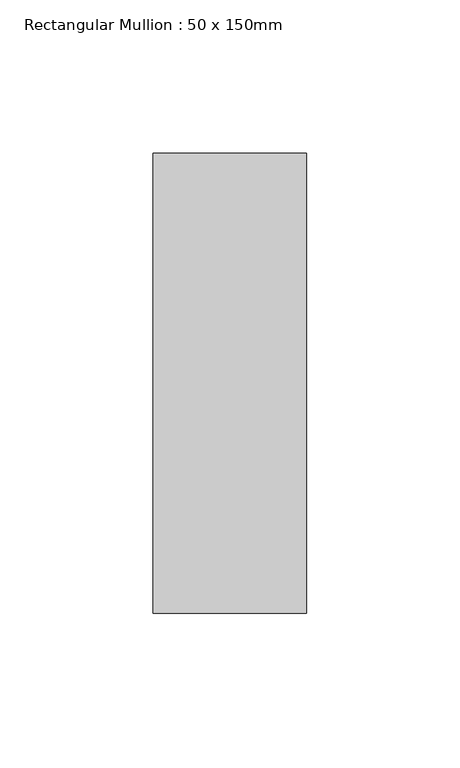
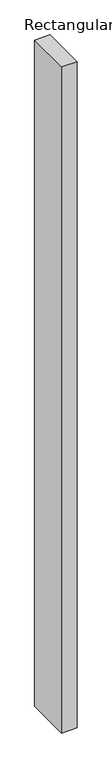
"""IFC4 building model written with IfcOpenShell, lengths in millimetres: member geometry, Rectangular Mullion : 50 x 150mm."""

from ifc_helpers import new_model, si_unit, frame, origin, place, context, project, spatial, polyline, outline, extrude, source, transform, mapped, element, save


def rectangular_mullion_50_x_150mm_ec782ea6(model_context):
    return source(origin(), model_context, "Body", "SweptSolid", [
        extrude(outline(polyline([(25.0, 75.0), (25.0, -75.0), (-25.0, -75.0), (-25.0, 75.0), (25.0, 75.0)])), frame((0.0, 0.0, -2275.0), z_axis=(0.0, 0.0, 1.0), x_axis=(1.0, 0.0, 0.0)), (0.0, 0.0, 1.0), 2275.0),
    ])


if __name__ == "__main__":
    model = new_model("IFC4")
    model_context = context("Model", 3, world=origin())
    ifc_project = project(units=[si_unit("LENGTHUNIT", "METRE", prefix="MILLI")], contexts=[model_context])
    site = spatial("IfcSite", under=ifc_project)
    building = spatial("IfcBuilding", under=site)
    placement = place(None, origin())
    rectangular_mullion_50_x_150mm_shape = rectangular_mullion_50_x_150mm_ec782ea6(model_context)
    element("IfcMember", 1, ObjectType="Rectangular Mullion : 50 x 150mm", at=placement, inside=building, context=model_context, shape_type="MappedRepresentation", body=[
        mapped(rectangular_mullion_50_x_150mm_shape, transform((0.0, 0.0, 0.0), x_axis=(1.0, 0.0, 0.0), y_axis=(0.0, 1.0, 0.0), z_axis=(0.0, 0.0, 1.0))),
    ])
    save(model, "model.ifc")
